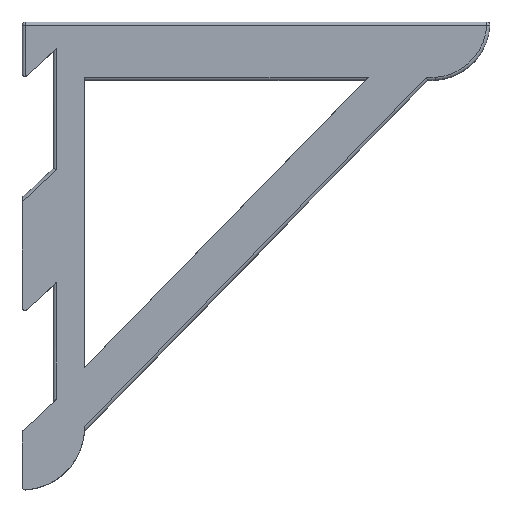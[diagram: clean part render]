
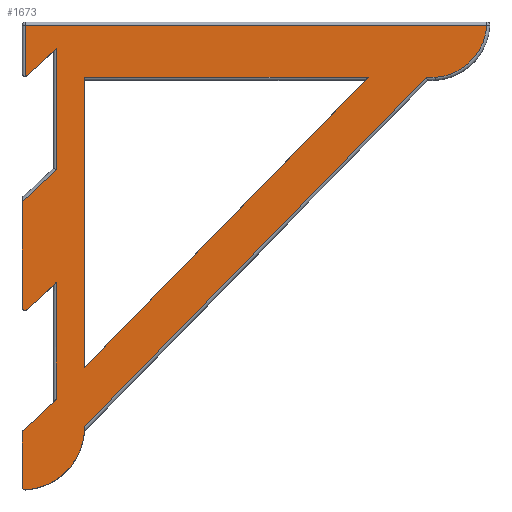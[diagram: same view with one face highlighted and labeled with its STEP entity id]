
A CAD part, top view. The second image highlights one B-rep face of the part: STEP entity #1673.
In plain terms, the highlighted planar face has unit normal (0, 0, 1).
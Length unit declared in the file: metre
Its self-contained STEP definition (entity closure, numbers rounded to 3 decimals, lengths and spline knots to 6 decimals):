
#71=CIRCLE('',#1779,0.025453);
#74=CIRCLE('',#1800,0.00127);
#75=CIRCLE('',#1801,0.00127);
#76=CIRCLE('',#1802,0.00127);
#77=CIRCLE('',#1803,0.022592);
#78=CIRCLE('',#1804,0.00127);
#268=ORIENTED_EDGE('',*,*,#734,.F.);
#269=ORIENTED_EDGE('',*,*,#760,.T.);
#270=ORIENTED_EDGE('',*,*,#761,.T.);
#271=ORIENTED_EDGE('',*,*,#657,.F.);
#272=ORIENTED_EDGE('',*,*,#762,.T.);
#273=ORIENTED_EDGE('',*,*,#745,.F.);
#274=ORIENTED_EDGE('',*,*,#763,.T.);
#275=ORIENTED_EDGE('',*,*,#751,.F.);
#276=ORIENTED_EDGE('',*,*,#764,.T.);
#277=ORIENTED_EDGE('',*,*,#753,.F.);
#278=ORIENTED_EDGE('',*,*,#765,.T.);
#279=ORIENTED_EDGE('',*,*,#712,.T.);
#280=ORIENTED_EDGE('',*,*,#766,.T.);
#281=ORIENTED_EDGE('',*,*,#767,.T.);
#282=ORIENTED_EDGE('',*,*,#768,.T.);
#283=ORIENTED_EDGE('',*,*,#769,.T.);
#284=ORIENTED_EDGE('',*,*,#770,.T.);
#285=ORIENTED_EDGE('',*,*,#771,.T.);
#286=ORIENTED_EDGE('',*,*,#772,.T.);
#287=ORIENTED_EDGE('',*,*,#758,.F.);
#288=ORIENTED_EDGE('',*,*,#704,.F.);
#657=EDGE_CURVE('',#908,#909,#1062,.T.);
#704=EDGE_CURVE('',#955,#951,#1094,.T.);
#712=EDGE_CURVE('',#958,#962,#71,.T.);
#734=EDGE_CURVE('',#981,#977,#1118,.T.);
#745=EDGE_CURVE('',#990,#986,#1128,.T.);
#751=EDGE_CURVE('',#994,#995,#1134,.T.);
#753=EDGE_CURVE('',#996,#997,#1135,.T.);
#758=EDGE_CURVE('',#951,#1000,#1140,.T.);
#760=EDGE_CURVE('',#981,#1001,#1141,.T.);
#761=EDGE_CURVE('',#1001,#909,#1142,.F.);
#762=EDGE_CURVE('',#908,#986,#74,.T.);
#763=EDGE_CURVE('',#990,#995,#1143,.F.);
#764=EDGE_CURVE('',#994,#997,#75,.T.);
#765=EDGE_CURVE('',#996,#958,#76,.T.);
#766=EDGE_CURVE('',#962,#1002,#1144,.F.);
#767=EDGE_CURVE('',#1002,#1003,#1145,.T.);
#768=EDGE_CURVE('',#1003,#1004,#77,.T.);
#769=EDGE_CURVE('',#1004,#1005,#1146,.F.);
#770=EDGE_CURVE('',#1005,#1006,#1147,.F.);
#771=EDGE_CURVE('',#1006,#977,#78,.T.);
#772=EDGE_CURVE('',#955,#1000,#1148,.T.);
#908=VERTEX_POINT('',#2380);
#909=VERTEX_POINT('',#2381);
#951=VERTEX_POINT('',#2493);
#955=VERTEX_POINT('',#2500);
#958=VERTEX_POINT('',#2510);
#962=VERTEX_POINT('',#2522);
#977=VERTEX_POINT('',#2562);
#981=VERTEX_POINT('',#2569);
#986=VERTEX_POINT('',#2585);
#990=VERTEX_POINT('',#2592);
#994=VERTEX_POINT('',#2604);
#995=VERTEX_POINT('',#2606);
#996=VERTEX_POINT('',#2610);
#997=VERTEX_POINT('',#2611);
#1000=VERTEX_POINT('',#2620);
#1001=VERTEX_POINT('',#2624);
#1002=VERTEX_POINT('',#2631);
#1003=VERTEX_POINT('',#2633);
#1004=VERTEX_POINT('',#2635);
#1005=VERTEX_POINT('',#2637);
#1006=VERTEX_POINT('',#2639);
#1062=LINE('',#2379,#1227);
#1094=LINE('',#2501,#1259);
#1118=LINE('',#2570,#1283);
#1128=LINE('',#2593,#1293);
#1134=LINE('',#2605,#1299);
#1135=LINE('',#2609,#1300);
#1140=LINE('',#2619,#1305);
#1141=LINE('',#2623,#1306);
#1142=LINE('',#2625,#1307);
#1143=LINE('',#2627,#1308);
#1144=LINE('',#2630,#1309);
#1145=LINE('',#2632,#1310);
#1146=LINE('',#2636,#1311);
#1147=LINE('',#2638,#1312);
#1148=LINE('',#2641,#1313);
#1227=VECTOR('',#1922,1.);
#1259=VECTOR('',#1960,1.);
#1283=VECTOR('',#2010,1.);
#1293=VECTOR('',#2028,1.);
#1299=VECTOR('',#2038,1.);
#1300=VECTOR('',#2043,1.);
#1305=VECTOR('',#2050,1.);
#1306=VECTOR('',#2055,1.);
#1307=VECTOR('',#2056,1.);
#1308=VECTOR('',#2059,1.);
#1309=VECTOR('',#2064,1.);
#1310=VECTOR('',#2065,1.);
#1311=VECTOR('',#2068,1.);
#1312=VECTOR('',#2069,1.);
#1313=VECTOR('',#2072,1.);
#1413=EDGE_LOOP('',(#268,#269,#270,#271,#272,#273,#274,#275,#276,#277,#278,
#279,#280,#281,#282,#283,#284,#285));
#1414=EDGE_LOOP('',(#286,#287,#288));
#1522=FACE_BOUND('',#1413,.T.);
#1523=FACE_BOUND('',#1414,.T.);
#1625=PLANE('',#1799);
#1673=ADVANCED_FACE('',(#1522,#1523),#1625,.T.);
#1779=AXIS2_PLACEMENT_3D('',#2523,#1972,#1973);
#1799=AXIS2_PLACEMENT_3D('',#2622,#2053,#2054);
#1800=AXIS2_PLACEMENT_3D('',#2626,#2057,#2058);
#1801=AXIS2_PLACEMENT_3D('',#2628,#2060,#2061);
#1802=AXIS2_PLACEMENT_3D('',#2629,#2062,#2063);
#1803=AXIS2_PLACEMENT_3D('',#2634,#2066,#2067);
#1804=AXIS2_PLACEMENT_3D('',#2640,#2070,#2071);
#1922=DIRECTION('',(0.,1.,0.));
#1960=DIRECTION('',(0.,-1.,0.));
#1972=DIRECTION('',(0.,0.,1.));
#1973=DIRECTION('',(1.,0.,0.));
#2010=DIRECTION('',(-0.73,-0.684,0.));
#2028=DIRECTION('',(-0.73,-0.684,0.));
#2038=DIRECTION('',(0.73,0.684,0.));
#2043=DIRECTION('',(0.,1.,0.));
#2050=DIRECTION('',(0.699,0.715,0.));
#2053=DIRECTION('',(0.,0.,1.));
#2054=DIRECTION('',(1.,0.,0.));
#2055=DIRECTION('',(0.,-1.,0.));
#2056=DIRECTION('',(0.73,0.684,0.));
#2057=DIRECTION('',(0.,0.,1.));
#2058=DIRECTION('',(1.,0.,0.));
#2059=DIRECTION('',(0.,1.,0.));
#2060=DIRECTION('',(0.,0.,1.));
#2061=DIRECTION('',(1.,0.,0.));
#2062=DIRECTION('',(0.,0.,1.));
#2063=DIRECTION('',(1.,0.,0.));
#2064=DIRECTION('',(-0.699,-0.715,0.));
#2065=DIRECTION('',(1.,0.,0.));
#2066=DIRECTION('',(0.,0.,1.));
#2067=DIRECTION('',(1.,0.,0.));
#2068=DIRECTION('',(1.,0.,0.));
#2069=DIRECTION('',(0.,1.,0.));
#2070=DIRECTION('',(0.,0.,1.));
#2071=DIRECTION('',(1.,0.,0.));
#2072=DIRECTION('',(1.,0.,0.));
#2379=CARTESIAN_POINT('',(-0.0127,0.005953,0.0254));
#2380=CARTESIAN_POINT('',(-0.0127,-0.020881,0.0254));
#2381=CARTESIAN_POINT('',(-0.0127,0.022072,0.0254));
#2493=CARTESIAN_POINT('',(0.0127,-0.04546,0.0254));
#2500=CARTESIAN_POINT('',(0.0127,0.072708,0.0254));
#2501=CARTESIAN_POINT('',(0.0127,-0.02273,0.0254));
#2510=CARTESIAN_POINT('',(-0.011363,-0.095215,0.0254));
#2522=CARTESIAN_POINT('',(0.012752,-0.069568,0.0254));
#2523=CARTESIAN_POINT('',(-0.0127,-0.069797,0.0254));
#2562=CARTESIAN_POINT('',(-0.010561,0.073442,0.0254));
#2569=CARTESIAN_POINT('',(0.00127,0.084534,0.0254));
#2570=CARTESIAN_POINT('',(-0.00635,0.077391,0.0254));
#2585=CARTESIAN_POINT('',(-0.010561,-0.021808,0.0254));
#2592=CARTESIAN_POINT('',(0.00127,-0.010716,0.0254));
#2593=CARTESIAN_POINT('',(-0.00635,-0.017859,0.0254));
#2604=CARTESIAN_POINT('',(-0.012299,-0.071061,0.0254));
#2605=CARTESIAN_POINT('',(-0.00635,-0.065484,0.0254));
#2606=CARTESIAN_POINT('',(0.00127,-0.058341,0.0254));
#2609=CARTESIAN_POINT('',(-0.0127,-0.083344,0.0254));
#2610=CARTESIAN_POINT('',(-0.0127,-0.093947,0.0254));
#2611=CARTESIAN_POINT('',(-0.0127,-0.071988,0.0254));
#2619=CARTESIAN_POINT('',(0.06985,0.012989,0.0254));
#2620=CARTESIAN_POINT('',(0.128242,0.072708,0.0254));
#2622=CARTESIAN_POINT('',(0.08255,0.,0.0254));
#2623=CARTESIAN_POINT('',(0.00127,0.035719,0.0254));
#2624=CARTESIAN_POINT('',(0.00127,0.035169,0.0254));
#2625=CARTESIAN_POINT('',(0.026981,0.059273,0.0254));
#2626=CARTESIAN_POINT('',(-0.01143,-0.020881,0.0254));
#2627=CARTESIAN_POINT('',(0.00127,0.,0.0254));
#2628=CARTESIAN_POINT('',(-0.01143,-0.071988,0.0254));
#2629=CARTESIAN_POINT('',(-0.01143,-0.093947,0.0254));
#2630=CARTESIAN_POINT('',(0.081642,0.000888,0.0254));
#2631=CARTESIAN_POINT('',(0.151866,0.072708,0.0254));
#2632=CARTESIAN_POINT('',(0.155476,0.072708,0.0254));
#2633=CARTESIAN_POINT('',(0.155434,0.072708,0.0254));
#2634=CARTESIAN_POINT('',(0.153938,0.09525,0.0254));
#2635=CARTESIAN_POINT('',(0.176494,0.09398,0.0254));
#2636=CARTESIAN_POINT('',(0.08255,0.09398,0.0254));
#2637=CARTESIAN_POINT('',(-0.01143,0.09398,0.0254));
#2638=CARTESIAN_POINT('',(-0.01143,0.,0.0254));
#2639=CARTESIAN_POINT('',(-0.01143,0.073099,0.0254));
#2640=CARTESIAN_POINT('',(-0.01143,0.074369,0.0254));
#2641=CARTESIAN_POINT('',(0.127,0.072708,0.0254));
